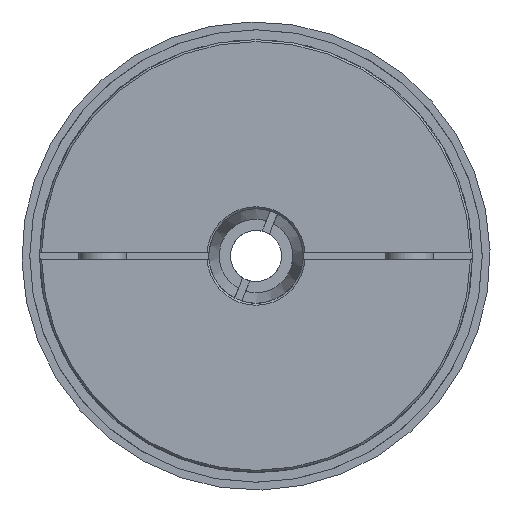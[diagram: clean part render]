
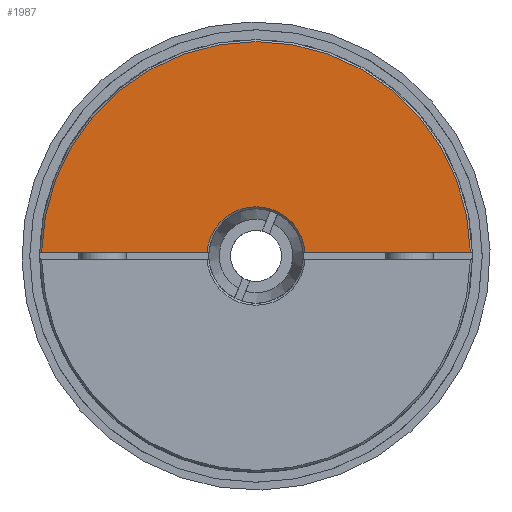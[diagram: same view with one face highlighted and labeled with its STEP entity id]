
A CAD part, left-side view. The second image highlights one B-rep face of the part: STEP entity #1987.
In plain terms, the highlighted planar face has unit normal (-1, 0, 0) as drawn and (1, 0, 0) by its records, which use the part's own axes.
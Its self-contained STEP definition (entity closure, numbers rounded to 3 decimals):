
#1987 = ADVANCED_FACE( '', ( #2835 ), #2836, .T. );
#2835 = FACE_OUTER_BOUND( '', #4220, .T. );
#2836 = PLANE( '', #4221 );
#4220 = EDGE_LOOP( '', ( #5049, #5050, #5051, #5052 ) );
#4221 = AXIS2_PLACEMENT_3D( '', #5053, #5054, #5055 );
#5049 = ORIENTED_EDGE( '', *, *, #5933, .F. );
#5050 = ORIENTED_EDGE( '', *, *, #5934, .T. );
#5051 = ORIENTED_EDGE( '', *, *, #5935, .F. );
#5052 = ORIENTED_EDGE( '', *, *, #5936, .T. );
#5053 = CARTESIAN_POINT( '', ( 41., 0., 55. ) );
#5054 = DIRECTION( '', ( 1., 0., 0. ) );
#5055 = DIRECTION( '', ( 0., 0., -1. ) );
#5933 = EDGE_CURVE( '', #7683, #7684, #7685, .T. );
#5934 = EDGE_CURVE( '', #7683, #7686, #7687, .F. );
#5935 = EDGE_CURVE( '', #7688, #7686, #7689, .T. );
#5936 = EDGE_CURVE( '', #7688, #7684, #7690, .T. );
#7683 = VERTEX_POINT( '', #8694 );
#7684 = VERTEX_POINT( '', #8695 );
#7685 = LINE( '', #8696, #8697 );
#7686 = VERTEX_POINT( '', #8698 );
#7687 = CIRCLE( '', #8699, 12.5 );
#7688 = VERTEX_POINT( '', #8700 );
#7689 = LINE( '', #8701, #8702 );
#7690 = CIRCLE( '', #8703, 54.5 );
#8694 = CARTESIAN_POINT( '', ( 41., -12.46, 1. ) );
#8695 = CARTESIAN_POINT( '', ( 41., -54.491, 1. ) );
#8696 = CARTESIAN_POINT( '', ( 41., 0., 1. ) );
#8697 = VECTOR( '', #9007, 1000. );
#8698 = CARTESIAN_POINT( '', ( 41., 12.46, 1. ) );
#8699 = AXIS2_PLACEMENT_3D( '', #9008, #9009, #9010 );
#8700 = CARTESIAN_POINT( '', ( 41., 54.491, 1. ) );
#8701 = CARTESIAN_POINT( '', ( 41., 0., 1. ) );
#8702 = VECTOR( '', #9011, 1000. );
#8703 = AXIS2_PLACEMENT_3D( '', #9012, #9013, #9014 );
#9007 = DIRECTION( '', ( 0., -1., 0. ) );
#9008 = CARTESIAN_POINT( '', ( 41., 0., 0. ) );
#9009 = DIRECTION( '', ( 1., 0., 0. ) );
#9010 = DIRECTION( '', ( 0., 0., -1. ) );
#9011 = DIRECTION( '', ( 0., -1., 0. ) );
#9012 = CARTESIAN_POINT( '', ( 41., 0., 0. ) );
#9013 = DIRECTION( '', ( 1., 0., 0. ) );
#9014 = DIRECTION( '', ( 0., 0., -1. ) );
